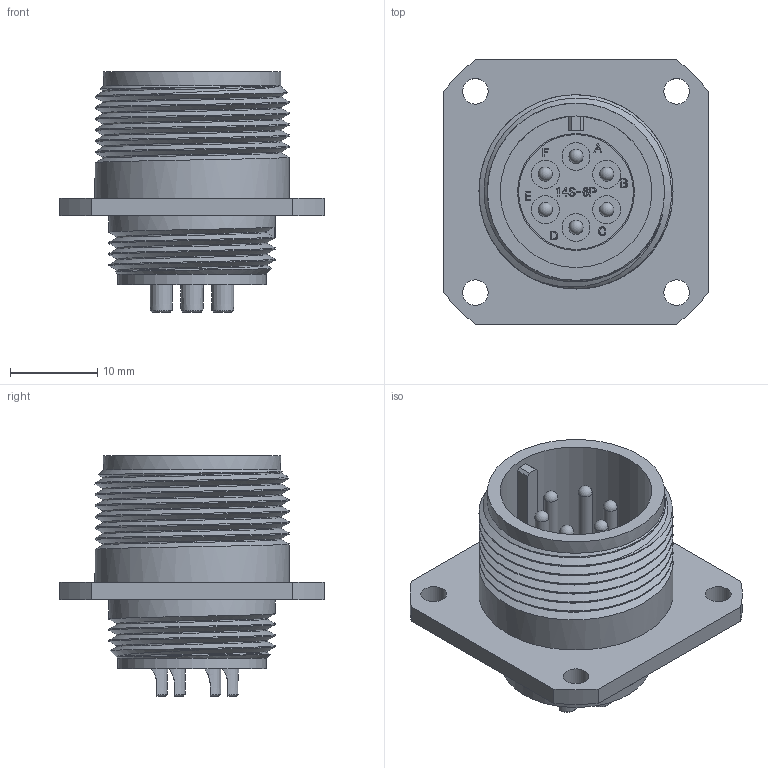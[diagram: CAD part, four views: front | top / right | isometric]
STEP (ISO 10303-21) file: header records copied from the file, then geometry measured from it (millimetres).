
FILE_DESCRIPTION (( 'STEP AP203' ), '1' );
FILE_NAME ('DMS3100A14S-6P(D263).STEP', '2022-01-26T02:51:16', ( '' ), ( '' ), 'SwSTEP 2.0', 'SolidWorks 2018', '' );
FILE_SCHEMA (( 'CONFIG_CONTROL_DESIGN' ));
Length unit declared in the file: millimetre
Products named in the file (1): DMS3100A14S-6P(D263)
Bounding box: 30.2 x 30.2 x 27.51 mm (x, y, z)
Volume: 4924 mm3; surface area: 5905.9 mm2
Topology: 1 solids, 1 shells, 479 faces, 1251 edges, 829 vertices
Faces by surface type: plane 233, bspline 145, cylinder 81, cone 14, sphere 6
Full cylindrical faces by diameter (mm): 1.61 x6, 1.78 x6, 2.59 x6, 2.93 x4, 3.16 x6, 3.2 x6, 3.6 x6, 13.13 x1, 13.36 x1, 14.86 x1, 16.98 x1, 17.34 x1, 19.01 x2, 20.26 x1, 22.19 x5
Entity records: 19840 total; most frequent: CARTESIAN_POINT 9619, ORIENTED_EDGE 2252, DIRECTION 1599, EDGE_CURVE 1126, VERTEX_POINT 779, VECTOR 645, LINE 645, EDGE_LOOP 603
